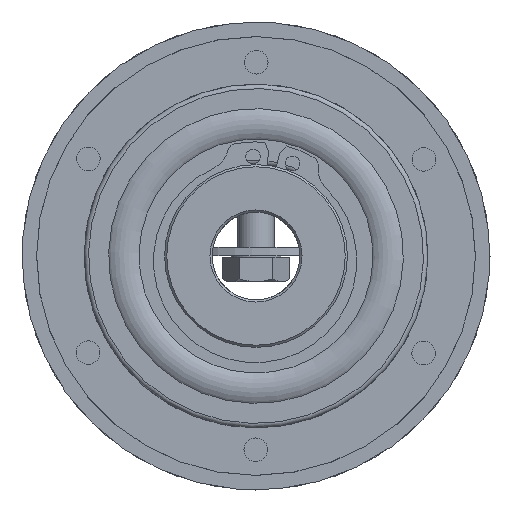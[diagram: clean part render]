
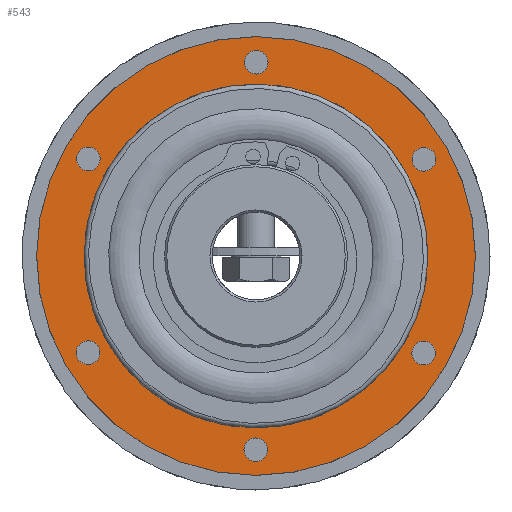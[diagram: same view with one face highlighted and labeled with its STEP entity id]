
A CAD part, left-side view. The second image highlights one B-rep face of the part: STEP entity #543.
In plain terms, the highlighted planar face has unit normal (-1, 0, 0).
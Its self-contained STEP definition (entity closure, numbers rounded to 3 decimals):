
#543 = ADVANCED_FACE( '', ( #987, #988, #989, #990, #991, #992, #993, #994 ), #995, .F. );
#987 = FACE_OUTER_BOUND( '', #1419, .T. );
#988 = FACE_BOUND( '', #1420, .T. );
#989 = FACE_BOUND( '', #1421, .T. );
#990 = FACE_BOUND( '', #1422, .T. );
#991 = FACE_BOUND( '', #1423, .T. );
#992 = FACE_BOUND( '', #1424, .T. );
#993 = FACE_BOUND( '', #1425, .T. );
#994 = FACE_BOUND( '', #1426, .T. );
#995 = PLANE( '', #1427 );
#1419 = EDGE_LOOP( '', ( #2339 ) );
#1420 = EDGE_LOOP( '', ( #2340 ) );
#1421 = EDGE_LOOP( '', ( #2341 ) );
#1422 = EDGE_LOOP( '', ( #2342 ) );
#1423 = EDGE_LOOP( '', ( #2343 ) );
#1424 = EDGE_LOOP( '', ( #2344 ) );
#1425 = EDGE_LOOP( '', ( #2345 ) );
#1426 = EDGE_LOOP( '', ( #2346 ) );
#1427 = AXIS2_PLACEMENT_3D( '', #2347, #2348, #2349 );
#2339 = ORIENTED_EDGE( '', *, *, #2631, .T. );
#2340 = ORIENTED_EDGE( '', *, *, #2636, .T. );
#2341 = ORIENTED_EDGE( '', *, *, #2639, .T. );
#2342 = ORIENTED_EDGE( '', *, *, #2640, .T. );
#2343 = ORIENTED_EDGE( '', *, *, #2641, .T. );
#2344 = ORIENTED_EDGE( '', *, *, #2633, .T. );
#2345 = ORIENTED_EDGE( '', *, *, #2638, .T. );
#2346 = ORIENTED_EDGE( '', *, *, #2642, .F. );
#2347 = CARTESIAN_POINT( '', ( -11.65, 30., 0. ) );
#2348 = DIRECTION( '', ( 1., 0., 0. ) );
#2349 = DIRECTION( '', ( 0., 1., 0. ) );
#2631 = EDGE_CURVE( '', #3066, #3066, #3067, .T. );
#2633 = EDGE_CURVE( '', #3070, #3070, #3071, .T. );
#2636 = EDGE_CURVE( '', #3076, #3076, #3077, .T. );
#2638 = EDGE_CURVE( '', #3080, #3080, #3081, .T. );
#2639 = EDGE_CURVE( '', #3082, #3082, #3083, .T. );
#2640 = EDGE_CURVE( '', #3084, #3084, #3085, .T. );
#2641 = EDGE_CURVE( '', #3086, #3086, #3087, .T. );
#2642 = EDGE_CURVE( '', #3088, #3088, #3089, .T. );
#3066 = VERTEX_POINT( '', #3890 );
#3067 = CIRCLE( '', #3891, 30. );
#3070 = VERTEX_POINT( '', #3894 );
#3071 = CIRCLE( '', #3895, 1.621 );
#3076 = VERTEX_POINT( '', #3900 );
#3077 = CIRCLE( '', #3901, 1.621 );
#3080 = VERTEX_POINT( '', #3904 );
#3081 = CIRCLE( '', #3905, 1.621 );
#3082 = VERTEX_POINT( '', #3906 );
#3083 = CIRCLE( '', #3907, 1.621 );
#3084 = VERTEX_POINT( '', #3908 );
#3085 = CIRCLE( '', #3909, 1.621 );
#3086 = VERTEX_POINT( '', #3910 );
#3087 = CIRCLE( '', #3911, 1.621 );
#3088 = VERTEX_POINT( '', #3912 );
#3089 = CIRCLE( '', #3913, 23.5 );
#3890 = CARTESIAN_POINT( '', ( -11.65, 0., 30. ) );
#3891 = AXIS2_PLACEMENT_3D( '', #4414, #4415, #4416 );
#3894 = CARTESIAN_POINT( '', ( -11.65, -24.354, 14.061 ) );
#3895 = AXIS2_PLACEMENT_3D( '', #4420, #4421, #4422 );
#3900 = CARTESIAN_POINT( '', ( -11.65, 24.354, 14.061 ) );
#3901 = AXIS2_PLACEMENT_3D( '', #4429, #4430, #4431 );
#3904 = CARTESIAN_POINT( '', ( -11.65, 0., 28.121 ) );
#3905 = AXIS2_PLACEMENT_3D( '', #4435, #4436, #4437 );
#3906 = CARTESIAN_POINT( '', ( -11.65, 24.354, -14.061 ) );
#3907 = AXIS2_PLACEMENT_3D( '', #4438, #4439, #4440 );
#3908 = CARTESIAN_POINT( '', ( -11.65, 0., -28.121 ) );
#3909 = AXIS2_PLACEMENT_3D( '', #4441, #4442, #4443 );
#3910 = CARTESIAN_POINT( '', ( -11.65, -24.354, -14.061 ) );
#3911 = AXIS2_PLACEMENT_3D( '', #4444, #4445, #4446 );
#3912 = CARTESIAN_POINT( '', ( -11.65, 0., 23.5 ) );
#3913 = AXIS2_PLACEMENT_3D( '', #4447, #4448, #4449 );
#4414 = CARTESIAN_POINT( '', ( -11.65, 0., 0. ) );
#4415 = DIRECTION( '', ( -1., 0., 0. ) );
#4416 = DIRECTION( '', ( 0., 0., 1. ) );
#4420 = CARTESIAN_POINT( '', ( -11.65, -22.95, 13.25 ) );
#4421 = DIRECTION( '', ( 1., 0., 0. ) );
#4422 = DIRECTION( '', ( 0., -0.866, 0.5 ) );
#4429 = CARTESIAN_POINT( '', ( -11.65, 22.95, 13.25 ) );
#4430 = DIRECTION( '', ( 1., 0., 0. ) );
#4431 = DIRECTION( '', ( 0., 0.866, 0.5 ) );
#4435 = CARTESIAN_POINT( '', ( -11.65, 0., 26.5 ) );
#4436 = DIRECTION( '', ( 1., 0., 0. ) );
#4437 = DIRECTION( '', ( 0., 0., 1. ) );
#4438 = CARTESIAN_POINT( '', ( -11.65, 22.95, -13.25 ) );
#4439 = DIRECTION( '', ( 1., 0., 0. ) );
#4440 = DIRECTION( '', ( 0., 0.866, -0.5 ) );
#4441 = CARTESIAN_POINT( '', ( -11.65, 0., -26.5 ) );
#4442 = DIRECTION( '', ( 1., 0., 0. ) );
#4443 = DIRECTION( '', ( 0., 0., -1. ) );
#4444 = CARTESIAN_POINT( '', ( -11.65, -22.95, -13.25 ) );
#4445 = DIRECTION( '', ( 1., 0., 0. ) );
#4446 = DIRECTION( '', ( 0., -0.866, -0.5 ) );
#4447 = CARTESIAN_POINT( '', ( -11.65, 0., 0. ) );
#4448 = DIRECTION( '', ( -1., 0., 0. ) );
#4449 = DIRECTION( '', ( 0., 0., 1. ) );
